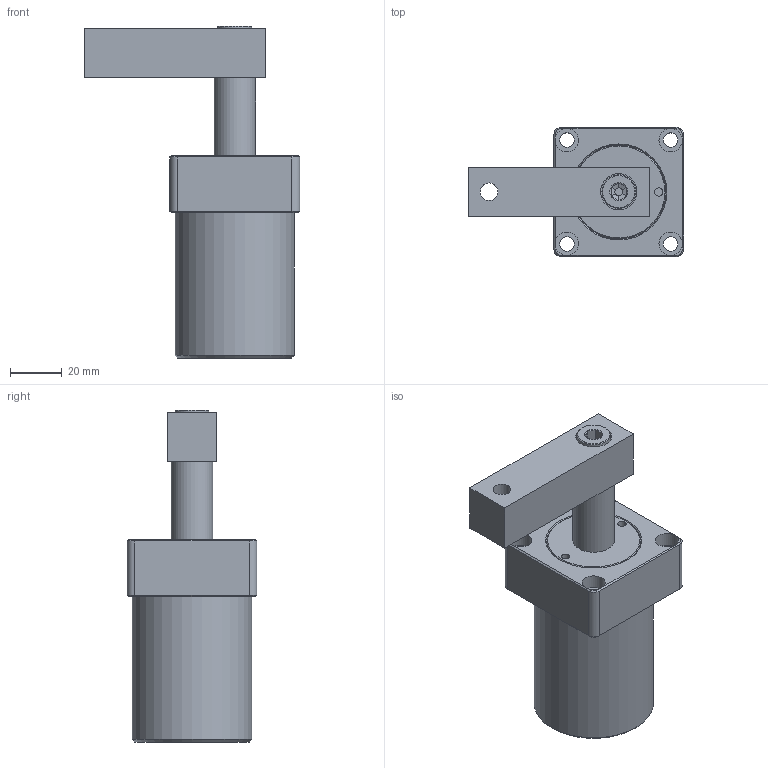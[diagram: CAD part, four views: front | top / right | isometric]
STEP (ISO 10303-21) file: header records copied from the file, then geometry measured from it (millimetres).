
FILE_DESCRIPTION(/* description */ ('Unknown'),/* implementation_level */ '2;1');
FILE_NAME(/* name */ 'ASC-FA32S-A',/* time_stamp */ '2019-05-20T10:28:12+08:00',/* author */ ('Unknown'),/* organization */ ('Unknown'),/* preprocessor_version */ 'ST-DEVELOPER v16.7',/* originating_system */ 'DEX',/* authorisation */ $);
FILE_SCHEMA (('AUTOMOTIVE_DESIGN {1 0 10303 214 3 1 1}'));
Length unit declared in the file: millimetre
Products named in the file (5): ASC-FA32S-A; ASC-FA32S-CYLINDER; ASC-3202-S-AXLE CENTRE; ASC-32S-A; ASC-3202-S-THREAD
Assembly tree (4 placements, depth 2):
  ASC-FA32S-A
    ASC-FA32S-CYLINDER
    ASC-3202-S-AXLE CENTRE
    ASC-32S-A
    ASC-3202-S-THREAD
Bounding box: 83 x 50 x 128 mm (x, y, z)
Volume: 152619.9 mm3; surface area: 40087.8 mm2
Topology: 4 solids, 4 shells, 113 faces, 229 edges, 138 vertices
Faces by surface type: plane 52, cylinder 27, cone 25, bspline 6, torus 3
Full cylindrical faces by diameter (mm): 3.2 x2, 5.6 x4, 6.8 x1, 8 x2, 9 x5, 9.147 x2, 13 x1, 14 x1, 16 x2, 32 x2, 46 x1
Entity records: 3619 total; most frequent: CARTESIAN_POINT 552, DIRECTION 484, ORIENTED_EDGE 356, AXIS2_PLACEMENT_3D 206, EDGE_CURVE 178, EDGE_LOOP 176, FACE_BOUND 176, VERTEX_POINT 124
